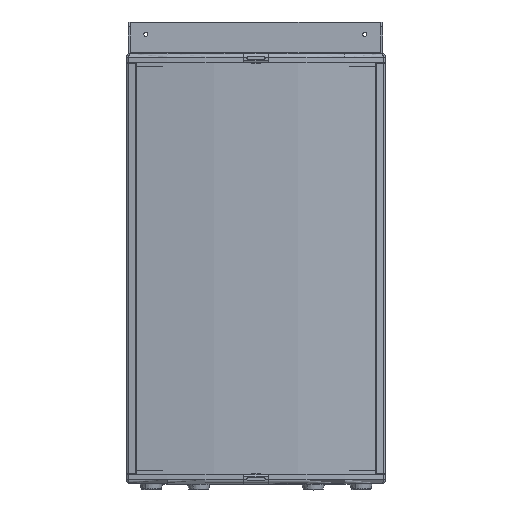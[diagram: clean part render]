
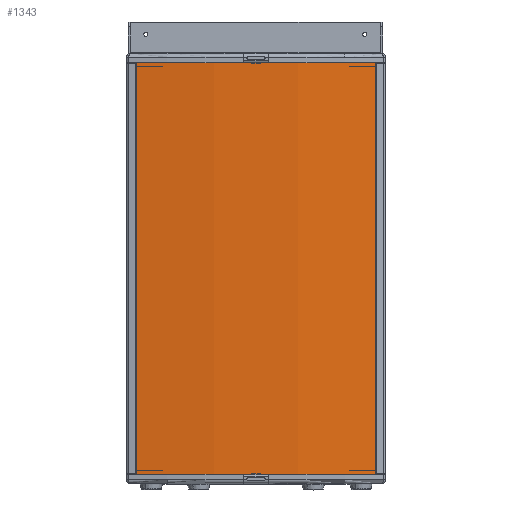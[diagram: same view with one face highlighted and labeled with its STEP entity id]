
A CAD part, top view. The second image highlights one B-rep face of the part: STEP entity #1343.
In plain terms, the highlighted cylindrical face has radius 1396.5 mm (diameter 2793 mm), a partial arc.
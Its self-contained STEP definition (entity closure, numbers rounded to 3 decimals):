
#1343 = ADVANCED_FACE ( 'NONE', ( #10631 ), #10632, .T. ) ;
#2239 = EDGE_CURVE ( 'NONE', #42167, #42168, #24256, .T. ) ;
#2240 = EDGE_CURVE ( 'NONE', #42167, #42169, #24258, .T. ) ;
#2241 = EDGE_CURVE ( 'NONE', #42168, #42170, #24260, .T. ) ;
#2242 = EDGE_CURVE ( 'NONE', #42169, #42170, #24259, .T. ) ;
#4095 = ORIENTED_EDGE ( 'NONE', *, *, #2240, .F. ) ;
#4096 = ORIENTED_EDGE ( 'NONE', *, *, #2239, .T. ) ;
#4097 = ORIENTED_EDGE ( 'NONE', *, *, #2241, .T. ) ;
#4098 = ORIENTED_EDGE ( 'NONE', *, *, #2242, .F. ) ;
#10631 = FACE_OUTER_BOUND ( 'NONE', #41453, .T. ) ;
#10632 = CYLINDRICAL_SURFACE ( 'NONE', #13249, 1396.5 ) ;
#13249 = AXIS2_PLACEMENT_3D ( 'NONE', #20940, #20941, #20942 ) ;
#14109 = AXIS2_PLACEMENT_3D ( 'NONE', #25401, #25402, #25403 ) ;
#14110 = AXIS2_PLACEMENT_3D ( 'NONE', #25404, #25405, #25406 ) ;
#20940 = CARTESIAN_POINT ( 'NONE',  ( 0., 742.271, -1344.188 ) ) ;
#20941 = DIRECTION ( 'NONE',  ( 0., -1., 0. ) ) ;
#20942 = DIRECTION ( 'NONE',  ( 0., 0., -1. ) ) ;
#24256 = LINE ( 'NONE', #25399, #24257 ) ;
#24257 = VECTOR ( 'NONE', #25400, 1000. ) ;
#24258 = CIRCLE ( 'NONE', #14109, 1396.5 ) ;
#24259 = LINE ( 'NONE', #25407, #24261 ) ;
#24260 = CIRCLE ( 'NONE', #14110, 1396.5 ) ;
#24261 = VECTOR ( 'NONE', #25408, 1000. ) ;
#25399 = CARTESIAN_POINT ( 'NONE',  ( -203.938, 742.271, 37.341 ) ) ;
#25400 = DIRECTION ( 'NONE',  ( 0., -1., 0. ) ) ;
#25401 = CARTESIAN_POINT ( 'NONE',  ( 0., 334., -1344.188 ) ) ;
#25402 = DIRECTION ( 'NONE',  ( 0., 1., 0. ) ) ;
#25403 = DIRECTION ( 'NONE',  ( -1., 0., 0. ) ) ;
#25404 = CARTESIAN_POINT ( 'NONE',  ( 0., -334., -1344.188 ) ) ;
#25405 = DIRECTION ( 'NONE',  ( 0., 1., 0. ) ) ;
#25406 = DIRECTION ( 'NONE',  ( 0., 0., 1. ) ) ;
#25407 = CARTESIAN_POINT ( 'NONE',  ( 203.938, 742.271, 37.341 ) ) ;
#25408 = DIRECTION ( 'NONE',  ( 0., -1., 0. ) ) ;
#39987 = CARTESIAN_POINT ( 'NONE',  ( -203.938, 334., 37.341 ) ) ;
#39988 = CARTESIAN_POINT ( 'NONE',  ( -203.938, -334., 37.341 ) ) ;
#39989 = CARTESIAN_POINT ( 'NONE',  ( 203.938, 334., 37.341 ) ) ;
#39990 = CARTESIAN_POINT ( 'NONE',  ( 203.938, -334., 37.341 ) ) ;
#41453 = EDGE_LOOP ( 'NONE', ( #4095, #4096, #4097, #4098 ) ) ;
#42167 = VERTEX_POINT ( 'NONE', #39987 ) ;
#42168 = VERTEX_POINT ( 'NONE', #39988 ) ;
#42169 = VERTEX_POINT ( 'NONE', #39989 ) ;
#42170 = VERTEX_POINT ( 'NONE', #39990 ) ;
